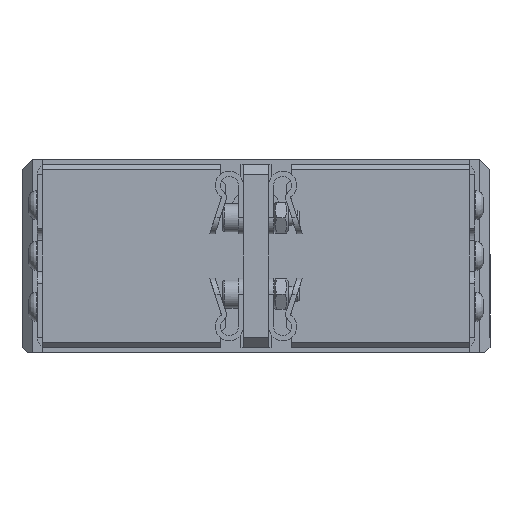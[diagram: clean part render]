
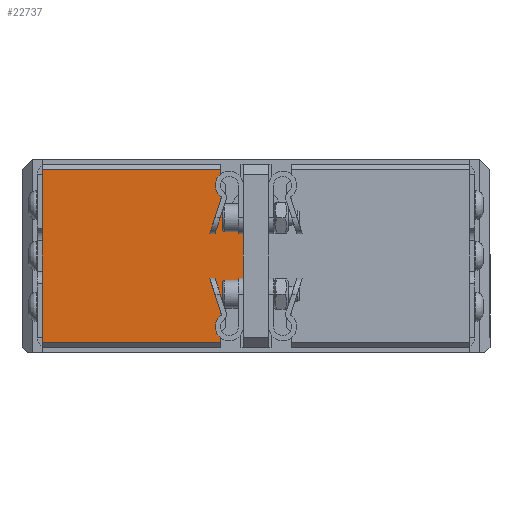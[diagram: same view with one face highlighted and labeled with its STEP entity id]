
A CAD part, front view. The second image highlights one B-rep face of the part: STEP entity #22737.
In plain terms, the highlighted planar face has unit normal (0, -1, 0).
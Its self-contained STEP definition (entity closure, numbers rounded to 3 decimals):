
#2074=CIRCLE($,#24461,2.);
#2083=CIRCLE($,#24475,2.);
#2919=FACE_OUTER_BOUND($,#4432,.T.);
#4432=EDGE_LOOP($,(#17149,#17150,#17151,#17152,#17153,#17154,#17155,#17156,
#17157,#17158));
#6287=LINE($,#37097,#8231);
#6297=LINE($,#37115,#8241);
#6299=LINE($,#37119,#8243);
#6300=LINE($,#37122,#8244);
#6329=LINE($,#37181,#8273);
#6330=LINE($,#37182,#8274);
#6331=LINE($,#37183,#8275);
#6332=LINE($,#37184,#8276);
#8231=VECTOR($,#27876,2.5);
#8241=VECTOR($,#27892,2.5);
#8243=VECTOR($,#27896,6.);
#8244=VECTOR($,#27899,35.);
#8273=VECTOR($,#27940,35.);
#8274=VECTOR($,#27941,34.);
#8275=VECTOR($,#27942,18.);
#8276=VECTOR($,#27943,6.);
#10285=VERTEX_POINT($,#36980);
#10286=VERTEX_POINT($,#36981);
#10309=VERTEX_POINT($,#37035);
#10310=VERTEX_POINT($,#37036);
#10328=VERTEX_POINT($,#37095);
#10332=VERTEX_POINT($,#37111);
#10334=VERTEX_POINT($,#37117);
#10335=VERTEX_POINT($,#37121);
#10358=VERTEX_POINT($,#37179);
#10359=VERTEX_POINT($,#37180);
#12823=EDGE_CURVE($,#10285,#10286,#2074,.T.);
#12849=EDGE_CURVE($,#10309,#10310,#2083,.T.);
#12882=EDGE_CURVE($,#10286,#10328,#6287,.T.);
#12892=EDGE_CURVE($,#10332,#10309,#6297,.T.);
#12894=EDGE_CURVE($,#10334,#10285,#6299,.T.);
#12895=EDGE_CURVE($,#10334,#10335,#6300,.T.);
#12924=EDGE_CURVE($,#10358,#10359,#6329,.T.);
#12925=EDGE_CURVE($,#10358,#10335,#6330,.T.);
#12926=EDGE_CURVE($,#10328,#10332,#6331,.T.);
#12927=EDGE_CURVE($,#10310,#10359,#6332,.T.);
#17149=ORIENTED_EDGE($,*,*,#12924,.F.);
#17150=ORIENTED_EDGE($,*,*,#12925,.T.);
#17151=ORIENTED_EDGE($,*,*,#12895,.F.);
#17152=ORIENTED_EDGE($,*,*,#12894,.T.);
#17153=ORIENTED_EDGE($,*,*,#12823,.T.);
#17154=ORIENTED_EDGE($,*,*,#12882,.T.);
#17155=ORIENTED_EDGE($,*,*,#12926,.T.);
#17156=ORIENTED_EDGE($,*,*,#12892,.T.);
#17157=ORIENTED_EDGE($,*,*,#12849,.T.);
#17158=ORIENTED_EDGE($,*,*,#12927,.T.);
#21733=PLANE($,#24498);
#22737=ADVANCED_FACE($,(#2919),#21733,.T.);
#24461=AXIS2_PLACEMENT_3D($,#36982,#27776,#27777);
#24475=AXIS2_PLACEMENT_3D($,#37037,#27821,#27822);
#24498=AXIS2_PLACEMENT_3D($,#37178,#27938,#27939);
#27776=DIRECTION('center_axis',(0.,1.,0.));
#27777=DIRECTION('ref_axis',(0.,0.,
1.));
#27821=DIRECTION('center_axis',(0.,1.,0.));
#27822=DIRECTION('ref_axis',(-1.,0.,0.));
#27876=DIRECTION($,(1.,0.,0.));
#27892=DIRECTION($,(-1.,0.,0.));
#27896=DIRECTION($,(0.,0.,1.));
#27899=DIRECTION($,(-1.,0.,0.));
#27938=DIRECTION('center_axis',(0.,-1.,0.));
#27939=DIRECTION('ref_axis',(1.,0.,0.));
#27940=DIRECTION($,(1.,0.,0.));
#27941=DIRECTION($,(0.,0.,-1.));
#27942=DIRECTION($,(0.,0.,1.));
#27943=DIRECTION($,(0.,0.,1.));
#36980=CARTESIAN_POINT('',(-7.,-83.,8.));
#36981=CARTESIAN_POINT('',(-5.,-83.,10.));
#36982=CARTESIAN_POINT('Origin',(-5.,-83.,8.));
#37035=CARTESIAN_POINT('',(-5.,-83.,28.));
#37036=CARTESIAN_POINT('',(-7.,-83.,30.));
#37037=CARTESIAN_POINT('Origin',(-5.,-83.,30.));
#37095=CARTESIAN_POINT('',(-2.5,-83.,10.));
#37097=CARTESIAN_POINT($,(-2.5,-83.,10.));
#37111=CARTESIAN_POINT('',(-2.5,-83.,28.));
#37115=CARTESIAN_POINT($,(2.5,-83.,28.));
#37117=CARTESIAN_POINT('',(-7.,-83.,2.));
#37119=CARTESIAN_POINT($,(-7.,-83.,10.));
#37121=CARTESIAN_POINT('',(-42.,-83.,2.));
#37122=CARTESIAN_POINT($,(-21.,-83.,2.));
#37178=CARTESIAN_POINT('Origin',(0.,-83.,19.));
#37179=CARTESIAN_POINT('',(-42.,-83.,36.));
#37180=CARTESIAN_POINT('',(-7.,-83.,36.));
#37181=CARTESIAN_POINT($,(21.,-83.,36.));
#37182=CARTESIAN_POINT($,(-42.,-83.,37.));
#37183=CARTESIAN_POINT($,(-2.5,-83.,14.5));
#37184=CARTESIAN_POINT($,(-7.,-83.,24.5));
